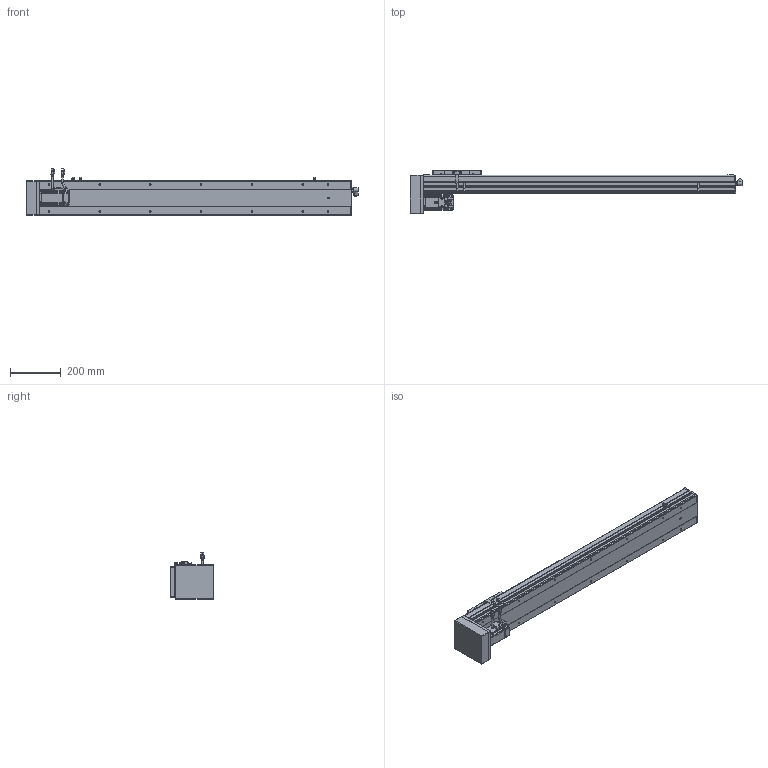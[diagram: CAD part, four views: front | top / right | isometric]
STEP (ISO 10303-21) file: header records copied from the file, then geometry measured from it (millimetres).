
FILE_DESCRIPTION(/* description */ ('STEP AP214'),/* implementation_level */ '2;1');
FILE_NAME(/* name */ 'PSC140-L05-S950-BM-P40-C1-N(0-P)',/* time_stamp */ '2022-06-13T03:21:44+02:00',/* author */ ('License CC BY-ND 4.0'),/* organization */ ('CADENAS'),/* preprocessor_version */ 'ST-DEVELOPER v18.102',/* originating_system */ 'PARTsolutions',/* authorisation */ ' ');
FILE_SCHEMA (('AUTOMOTIVE_DESIGN {1 0 10303 214 3 1 1}'));
Length unit declared in the file: millimetre
Products named in the file (11): PSC140-L05-S950-BM-P40-C1-N(0-P); P40-s2; P40-c2; P40-s1; P40-c1; P40-p1; PSC140-BM-body2; PSC140-sensor; PSC140-BM-SLIDER; PSC140-S950-BM-P40-C1-P_BODY1; PSC140-L05-S950-BM-P40-C1-N(0-P)_dummy
Assembly tree (12 placements, depth 2):
  PSC140-L05-S950-BM-P40-C1-N(0-P)
    P40-s2
    P40-c2
    P40-s1
    P40-c1
    P40-p1
    PSC140-BM-body2
    PSC140-sensor  x3
    PSC140-BM-SLIDER
    PSC140-S950-BM-P40-C1-P_BODY1
    PSC140-L05-S950-BM-P40-C1-N(0-P)_dummy
Bounding box: 1308 x 171.5 x 182.48 mm (x, y, z)
Volume: 13502100.1 mm3; surface area: 773739.4 mm2
Topology: 11 solids, 11 shells, 1244 faces, 3205 edges, 2120 vertices
Faces by surface type: plane 864, cylinder 319, cone 42, torus 19
Full cylindrical faces by diameter (mm): 1 x8, 2.6 x10, 2.8 x3, 3.3 x8, 4.5 x12, 4.6 x3, 4.917 x18, 5 x4, 5.5 x8, 6 x11, 7 x10, 9 x2, 10 x1, 11 x1, 12 x1, 13.74 x1, 14 x1, 16.4 x2, 16.5 x1, 36 x1, 50 x2
Entity records: 34392 total; most frequent: CARTESIAN_POINT 6002, DIRECTION 5789, ORIENTED_EDGE 5574, EDGE_CURVE 2787, LINE 2105, VECTOR 2105, VERTEX_POINT 1940, AXIS2_PLACEMENT_3D 1842
